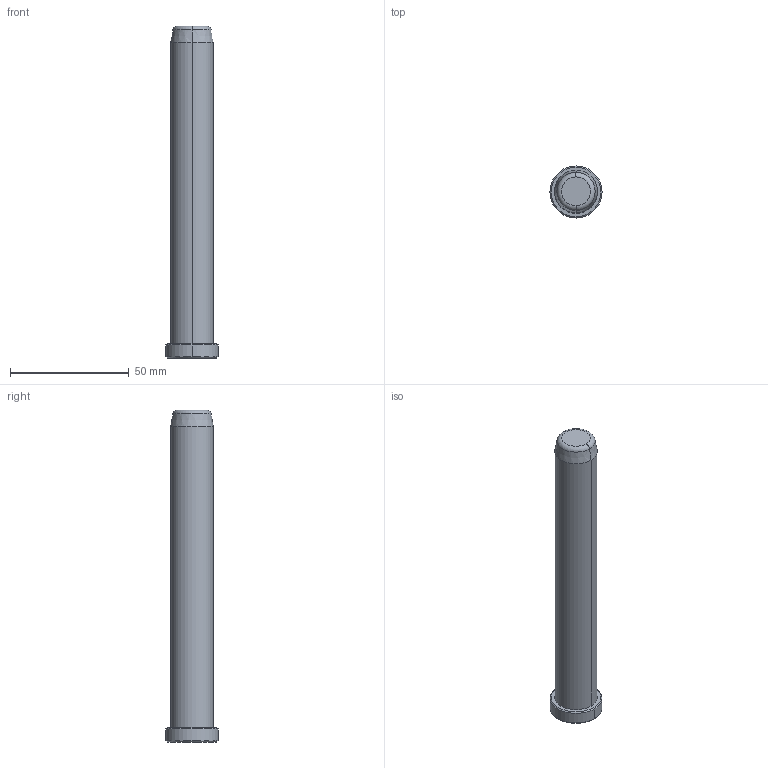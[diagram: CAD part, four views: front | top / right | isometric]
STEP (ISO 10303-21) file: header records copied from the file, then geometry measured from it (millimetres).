
FILE_DESCRIPTION((''),'2;1');
FILE_NAME('B81818140','2018-01-06T',('MANU'),(''),'PRO/ENGINEER BY PARAMETRIC TECHNOLOGY CORPORATION, 2012130','PRO/ENGINEER BY PARAMETRIC TECHNOLOGY CORPORATION, 2012130','');
FILE_SCHEMA(('CONFIG_CONTROL_DESIGN'));
Length unit declared in the file: millimetre
Products named in the file (1): B81818140
Bounding box: 22 x 22 x 140 mm (x, y, z)
Volume: 36103.1 mm3; surface area: 8596 mm2
Topology: 1 solids, 1 shells, 15 faces, 28 edges, 16 vertices
Faces by surface type: cone 6, cylinder 4, plane 3, torus 2
Entity records: 414 total; most frequent: DIRECTION 76, CARTESIAN_POINT 59, ORIENTED_EDGE 56, AXIS2_PLACEMENT_3D 33, EDGE_CURVE 28, CIRCLE 18, VERTEX_POINT 16, EDGE_LOOP 16
